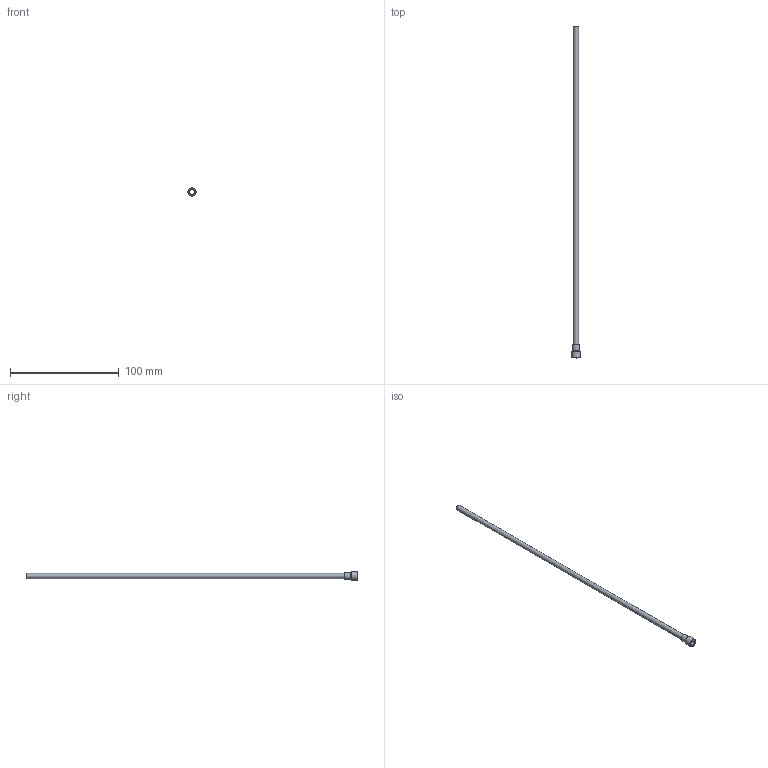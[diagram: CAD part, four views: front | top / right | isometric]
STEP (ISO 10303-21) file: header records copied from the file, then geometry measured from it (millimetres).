
FILE_DESCRIPTION(/* description */ (''),/* implementation_level */ '2;1');
FILE_NAME(/* name */ 'C:/Users/drich/Desktop/R187T-12 v1.step',/* time_stamp */ '2019-12-30T13:14:15-06:00',/* author */ (''),/* organization */ (''),/* preprocessor_version */ 'ST-DEVELOPER v18',/* originating_system */ 'Autodesk Translation Framework v8.12.0.6',/* authorisation */ '');
FILE_SCHEMA (('AUTOMOTIVE_DESIGN { 1 0 10303 214 3 1 1 }'));
Length unit declared in the file: inch
Products named in the file (1): R187T-12
Bounding box: 7.77 x 304.8 x 7.77 mm (x, y, z)
Volume: 1288.3 mm3; surface area: 8743.5 mm2
Topology: 1 solids, 1 shells, 19 faces, 47 edges, 33 vertices
Faces by surface type: plane 11, cylinder 4, torus 3, cone 1
Full cylindrical faces by diameter (mm): 4.242 x1, 4.724 x1, 6.243 x1, 7.772 x1
Entity records: 624 total; most frequent: DIRECTION 111, CARTESIAN_POINT 100, ORIENTED_EDGE 94, EDGE_CURVE 47, AXIS2_PLACEMENT_3D 44, VERTEX_POINT 33, EDGE_LOOP 24, CIRCLE 24
